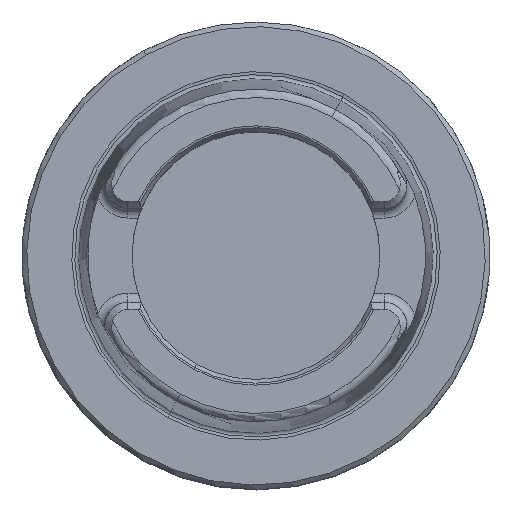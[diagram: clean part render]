
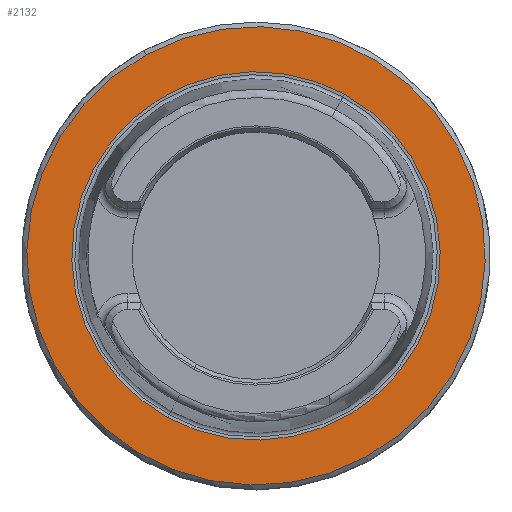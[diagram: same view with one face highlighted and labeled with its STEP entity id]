
A CAD part, top view. The second image highlights one B-rep face of the part: STEP entity #2132.
In plain terms, the highlighted planar face has unit normal (0, 0, 1).
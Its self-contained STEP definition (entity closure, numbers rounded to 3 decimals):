
#2074=AXIS2_PLACEMENT_3D('Circle Axis2P3D',#2072,#2073,$) ;
#2094=AXIS2_PLACEMENT_3D('Circle Axis2P3D',#2092,#2093,$) ;
#2108=AXIS2_PLACEMENT_3D('Plane Axis2P3D',#2105,#2106,#2107) ;
#2116=AXIS2_PLACEMENT_3D('Circle Axis2P3D',#2114,#2115,$) ;
#2125=AXIS2_PLACEMENT_3D('Circle Axis2P3D',#2123,#2124,$) ;
#2069=CARTESIAN_POINT('Vertex',(23.492,-43.002,0.)) ;
#2072=CARTESIAN_POINT('Axis2P3D Location',(0.,0.,0.)) ;
#2076=CARTESIAN_POINT('Vertex',(-23.492,43.002,0.)) ;
#2092=CARTESIAN_POINT('Axis2P3D Location',(0.,0.,0.)) ;
#2105=CARTESIAN_POINT('Axis2P3D Location',(0.,-38.285,0.)) ;
#2114=CARTESIAN_POINT('Axis2P3D Location',(0.,0.,0.)) ;
#2118=CARTESIAN_POINT('Vertex',(18.88,34.56,0.)) ;
#2120=CARTESIAN_POINT('Vertex',(-18.88,-34.56,0.)) ;
#2123=CARTESIAN_POINT('Axis2P3D Location',(0.,0.,0.)) ;
#2073=DIRECTION('Axis2P3D Direction',(0.,0.,-1.)) ;
#2093=DIRECTION('Axis2P3D Direction',(0.,0.,-1.)) ;
#2106=DIRECTION('Axis2P3D Direction',(0.,0.,-1.)) ;
#2107=DIRECTION('Axis2P3D XDirection',(-1.,0.,0.)) ;
#2115=DIRECTION('Axis2P3D Direction',(0.,0.,-1.)) ;
#2124=DIRECTION('Axis2P3D Direction',(0.,0.,-1.)) ;
#2111=ORIENTED_EDGE('',*,*,#2078,.F.) ;
#2112=ORIENTED_EDGE('',*,*,#2096,.F.) ;
#2129=ORIENTED_EDGE('',*,*,#2122,.T.) ;
#2130=ORIENTED_EDGE('',*,*,#2127,.T.) ;
#2131=FACE_BOUND('',#2128,.T.) ;
#2132=ADVANCED_FACE('NO_CUT',(#2113,#2131),#2109,.F.) ;
#2075=CIRCLE('generated circle',#2074,49.) ;
#2095=CIRCLE('generated circle',#2094,49.) ;
#2117=CIRCLE('generated circle',#2116,39.381) ;
#2126=CIRCLE('generated circle',#2125,39.381) ;
#2078=EDGE_CURVE('',#2070,#2077,#2075,.T.) ;
#2096=EDGE_CURVE('',#2077,#2070,#2095,.T.) ;
#2122=EDGE_CURVE('',#2119,#2121,#2117,.T.) ;
#2127=EDGE_CURVE('',#2121,#2119,#2126,.T.) ;
#2110=EDGE_LOOP('',(#2111,#2112)) ;
#2128=EDGE_LOOP('',(#2129,#2130)) ;
#2113=FACE_OUTER_BOUND('',#2110,.T.) ;
#2109=PLANE('',#2108) ;
#2070=VERTEX_POINT('',#2069) ;
#2077=VERTEX_POINT('',#2076) ;
#2119=VERTEX_POINT('',#2118) ;
#2121=VERTEX_POINT('',#2120) ;
